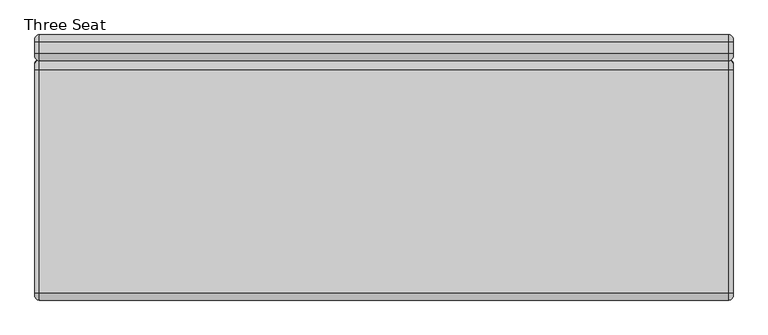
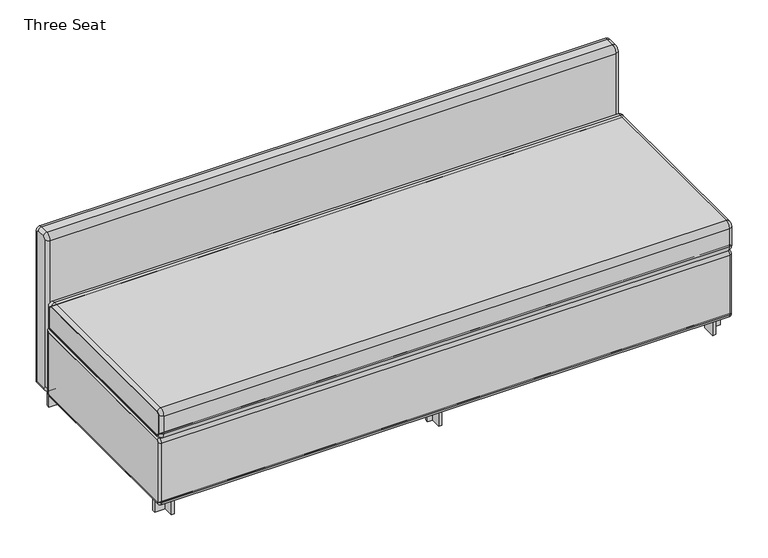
"""IFC4 building model written with IfcOpenShell, lengths in millimetres: furniture geometry, Steelcase Coalesse - Evaneau - Seating - Sofa : Three Seat."""

from ifc_helpers import new_model, si_unit, point, frame, frame_2d, origin, origin_with_axes, place, context, project, spatial, polyline, circle_curve, ellipse_curve, trimmed, segment, composite_curve, outline, extrude, source, transform, mapped, element, save
from ifc_brep_helpers import plane_surface, cylinder_surface, revolved_surface, advanced_brep


def three_seat_acbe4b72(model_context):
    return source(origin(), model_context, "Body", "SolidModel", [
        advanced_brep(
        [(392.722078, 1028.6276373, 663.0993943), (392.722078, 1007.0909384, 684.6360933), (405.422078, 1007.0909384, 671.9360933), (405.422078, 1015.9276373, 663.0993943), (-1720.557922, 1028.6276373, 663.0993943), (-1720.557922, 1007.0909384, 684.6360933), (-1733.257922, 1015.9276373, 663.0993943), (-1733.257922, 1007.0909384, 671.9360933), (405.422078, 1015.9276373, 73.3459621), (392.722078, 1028.6276373, 60.6459621), (-1720.557922, 1028.6276373, 60.6459621), (-1733.257922, 1015.9276373, 73.3459621), (405.422078, 971.5309093, 73.3459621), (392.722078, 971.5309093, 60.6459621), (-1720.557922, 971.5309093, 60.6459621), (-1733.257922, 971.5309093, 73.3459621), (405.422078, 962.6942103, 82.1826611), (392.722078, 949.9942103, 82.1826611), (-1720.557922, 949.9942103, 82.1826611), (-1733.257922, 962.6942103, 82.1826611), (405.422078, 962.6942103, 663.0993943), (392.722078, 949.9942103, 663.0993943), (-1720.557922, 949.9942103, 663.0993943), (-1733.257922, 962.6942103, 663.0993943), (405.422078, 971.5309093, 671.9360933), (392.722078, 971.5309093, 684.6360933), (-1720.557922, 971.5309093, 684.6360933), (-1733.257922, 971.5309093, 671.9360933)],
        [
            (0, 1, circle_curve(frame((392.722078, 1007.0909384, 663.0993943), z_axis=(1.0, 0.0, 0.0), x_axis=(0.0, 0.0, 1.0)), 21.536699)),
            (1, 2, circle_curve(frame((392.722078, 1007.0909384, 671.9360933), z_axis=(0.0, 1.0, 0.0), x_axis=(0.0, 0.0, -1.0)), 12.7)),
            (2, 3, circle_curve(frame((405.422078, 1007.0909384, 663.0993943), z_axis=(-1.0, 0.0, 0.0), x_axis=(0.0, 0.0, 1.0)), 8.836699)),
            (3, 0, circle_curve(frame((392.722078, 1015.9276373, 663.0993943), z_axis=(0.0, 0.0, 1.0), x_axis=(0.0, -1.0, 0.0)), 12.7)),
            (0, 4),
            (4, 5, circle_curve(frame((-1720.557922, 1007.0909384, 663.0993943), z_axis=(1.0, 0.0, 0.0), x_axis=(0.0, 0.0, 1.0)), 21.536699)),
            (5, 1),
            (4, 6, circle_curve(frame((-1720.557922, 1015.9276373, 663.0993943), z_axis=(0.0, 0.0, 1.0), x_axis=(0.0, -1.0, 0.0)), 12.7)),
            (6, 7, circle_curve(frame((-1733.257922, 1007.0909384, 663.0993943), z_axis=(1.0, 0.0, 0.0), x_axis=(0.0, 0.0, 1.0)), 8.836699)),
            (7, 5, circle_curve(frame((-1720.557922, 1007.0909384, 671.9360933), z_axis=(0.0, 1.0, 0.0), x_axis=(0.0, 0.0, -1.0)), 12.7)),
            (3, 8),
            (8, 9, ellipse_curve(frame((392.722078, 1015.9276373, 73.3459621), z_axis=(0.0, 0.7071067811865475, 0.7071067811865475), x_axis=(0.0, -0.7071067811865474, 0.7071067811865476)), 17.9605122, 12.7)),
            (9, 0),
            (9, 10),
            (10, 4),
            (10, 11, ellipse_curve(frame((-1720.557922, 1015.9276373, 73.3459621), z_axis=(0.0, 0.7071067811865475, 0.7071067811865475), x_axis=(0.0, -0.7071067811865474, 0.7071067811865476)), 17.9605122, 12.7)),
            (11, 6),
            (8, 12),
            (12, 13, circle_curve(frame((392.722078, 971.5309093, 73.3459621), z_axis=(0.0, 1.0, 0.0), x_axis=(0.0, 0.0, 1.0)), 12.7)),
            (13, 9),
            (13, 14),
            (14, 10),
            (14, 15, circle_curve(frame((-1720.557922, 971.5309093, 73.3459621), z_axis=(0.0, 1.0, 0.0), x_axis=(0.0, 0.0, 1.0)), 12.7)),
            (15, 11),
            (12, 16, circle_curve(frame((405.422078, 971.5309093, 82.1826611), z_axis=(-1.0, 0.0, 0.0), x_axis=(0.0, 0.0, -1.0)), 8.836699)),
            (16, 17, circle_curve(frame((392.722078, 962.6942103, 82.1826611), z_axis=(0.0, 0.0, -1.0), x_axis=(0.0, 1.0, 0.0)), 12.7)),
            (17, 13, circle_curve(frame((392.722078, 971.5309093, 82.1826611), z_axis=(1.0, 0.0, 0.0), x_axis=(0.0, 0.0, -1.0)), 21.536699)),
            (17, 18),
            (18, 14, circle_curve(frame((-1720.557922, 971.5309093, 82.1826611), z_axis=(1.0, 0.0, 0.0), x_axis=(0.0, 0.0, -1.0)), 21.536699)),
            (18, 19, circle_curve(frame((-1720.557922, 962.6942103, 82.1826611), z_axis=(0.0, 0.0, -1.0), x_axis=(0.0, 1.0, 0.0)), 12.7)),
            (19, 15, circle_curve(frame((-1733.257922, 971.5309093, 82.1826611), z_axis=(1.0, 0.0, 0.0), x_axis=(0.0, 0.0, -1.0)), 8.836699)),
            (16, 20),
            (20, 21, circle_curve(frame((392.722078, 962.6942103, 663.0993943), z_axis=(0.0, 0.0, -1.0), x_axis=(0.0, 1.0, 0.0)), 12.7)),
            (21, 17),
            (21, 22),
            (22, 18),
            (22, 23, circle_curve(frame((-1720.557922, 962.6942103, 663.0993943), z_axis=(0.0, 0.0, -1.0), x_axis=(0.0, 1.0, 0.0)), 12.7)),
            (23, 19),
            (20, 24, circle_curve(frame((405.422078, 971.5309093, 663.0993943), z_axis=(-1.0, 0.0, 0.0), x_axis=(0.0, -1.0, 0.0)), 8.836699)),
            (24, 25, circle_curve(frame((392.722078, 971.5309093, 671.9360933), z_axis=(0.0, -1.0, 0.0), x_axis=(0.0, 0.0, -1.0)), 12.7)),
            (25, 21, circle_curve(frame((392.722078, 971.5309093, 663.0993943), z_axis=(1.0, 0.0, 0.0), x_axis=(0.0, -1.0, 0.0)), 21.536699)),
            (25, 26),
            (26, 22, circle_curve(frame((-1720.557922, 971.5309093, 663.0993943), z_axis=(1.0, 0.0, 0.0), x_axis=(0.0, -1.0, 0.0)), 21.536699)),
            (26, 27, circle_curve(frame((-1720.557922, 971.5309093, 671.9360933), z_axis=(0.0, -1.0, 0.0), x_axis=(0.0, 0.0, -1.0)), 12.7)),
            (27, 23, circle_curve(frame((-1733.257922, 971.5309093, 663.0993943), z_axis=(1.0, 0.0, 0.0), x_axis=(0.0, -1.0, 0.0)), 8.836699)),
            (27, 7),
            (2, 24),
            (1, 25),
            (5, 26),
        ],
        [
            revolved_surface(trimmed(ellipse_curve(frame((392.722078, 1007.0909384, 671.9360933), z_axis=(0.0, -1.0, 0.0), x_axis=(0.0, 0.0, -1.0)), 12.7, 12.7), [point((405.422078, 1007.0909384, 671.9360933))], [point((392.722078, 1007.0909384, 684.6360933))], True, "CARTESIAN"), (-927.86904, 1007.0909384, 663.0993943), (-1.0, 0.0, 0.0)),
            cylinder_surface(frame((-927.86904, 1007.0909384, 663.0993943), z_axis=(-1.0, 0.0, 0.0), x_axis=(0.0, 0.0, 1.0)), 21.536699),
            revolved_surface(trimmed(ellipse_curve(frame((-1720.557922, 1007.0909384, 671.9360933), z_axis=(0.0, -1.0, 0.0), x_axis=(0.0, 0.0, -1.0)), 12.7, 12.7), [point((-1720.557922, 1007.0909384, 684.6360933))], [point((-1733.257922, 1007.0909384, 671.9360933))], True, "CARTESIAN"), (-927.86904, 1007.0909384, 663.0993943), (-1.0, 0.0, 0.0)),
            cylinder_surface(frame((392.722078, 1015.9276373, 663.0993943), z_axis=(0.0, 0.0, 1.0), x_axis=(0.0, -1.0, 0.0)), 12.7),
            plane_surface(frame((392.722078, 1028.6276373, 663.0993943), z_axis=(0.0, 1.0, 0.0), x_axis=(0.0, 0.0, -1.0))),
            cylinder_surface(frame((-1720.557922, 1015.9276373, 663.0993943), z_axis=(0.0, 0.0, 1.0), x_axis=(0.0, -1.0, 0.0)), 12.7),
            cylinder_surface(frame((392.722078, 1012.1709384, 73.3459621), z_axis=(0.0, 1.0, 0.0), x_axis=(0.0, 0.0, 1.0)), 12.7),
            plane_surface(frame((392.722078, 1028.6276373, 60.6459621), z_axis=(0.0, 0.0, -1.0), x_axis=(0.0, -1.0, 0.0))),
            cylinder_surface(frame((-1720.557922, 1012.1709384, 73.3459621), z_axis=(0.0, 1.0, 0.0), x_axis=(0.0, 0.0, 1.0)), 12.7),
            revolved_surface(trimmed(ellipse_curve(frame((392.722078, 971.5309093, 73.3459621), z_axis=(0.0, 1.0, 0.0), x_axis=(0.0, 0.0, 1.0)), 12.7, 12.7), [point((405.422078, 971.5309093, 73.3459621))], [point((392.722078, 971.5309093, 60.6459621))], True, "CARTESIAN"), (-927.86904, 971.5309093, 82.1826611), (-1.0, 0.0, 0.0)),
            cylinder_surface(frame((-927.86904, 971.5309093, 82.1826611), z_axis=(-1.0, 0.0, 0.0), x_axis=(0.0, 0.0, -1.0)), 21.536699),
            revolved_surface(trimmed(ellipse_curve(frame((-1720.557922, 971.5309093, 73.3459621), z_axis=(0.0, 1.0, 0.0), x_axis=(0.0, 0.0, 1.0)), 12.7, 12.7), [point((-1720.557922, 971.5309093, 60.6459621))], [point((-1733.257922, 971.5309093, 73.3459621))], True, "CARTESIAN"), (-927.86904, 971.5309093, 82.1826611), (-1.0, 0.0, 0.0)),
            cylinder_surface(frame((392.722078, 962.6942103, 82.1826611), z_axis=(0.0, 0.0, -1.0), x_axis=(0.0, 1.0, 0.0)), 12.7),
            plane_surface(frame((392.722078, 949.9942103, 82.1826611), z_axis=(0.0, -1.0, 0.0), x_axis=(0.0, 0.0, 1.0))),
            cylinder_surface(frame((-1720.557922, 962.6942103, 82.1826611), z_axis=(0.0, 0.0, -1.0), x_axis=(0.0, 1.0, 0.0)), 12.7),
            revolved_surface(trimmed(ellipse_curve(frame((392.722078, 962.6942103, 663.0993943), z_axis=(0.0, 0.0, -1.0), x_axis=(0.0, 1.0, 0.0)), 12.7, 12.7), [point((405.422078, 962.6942103, 663.0993943))], [point((392.722078, 949.9942103, 663.0993943))], True, "CARTESIAN"), (-927.86904, 971.5309093, 663.0993943), (-1.0, 0.0, 0.0)),
            cylinder_surface(frame((-927.86904, 971.5309093, 663.0993943), z_axis=(-1.0, 0.0, 0.0), x_axis=(0.0, -1.0, 0.0)), 21.536699),
            revolved_surface(trimmed(ellipse_curve(frame((-1720.557922, 962.6942103, 663.0993943), z_axis=(0.0, 0.0, -1.0), x_axis=(0.0, 1.0, 0.0)), 12.7, 12.7), [point((-1720.557922, 949.9942103, 663.0993943))], [point((-1733.257922, 962.6942103, 663.0993943))], True, "CARTESIAN"), (-927.86904, 971.5309093, 663.0993943), (-1.0, 0.0, 0.0)),
            plane_surface(frame((-1733.257922, 971.5309093, 671.9360933), z_axis=(-1.0, 0.0, 0.0), x_axis=(0.0, 1.0, 0.0))),
            plane_surface(frame((405.422078, 971.5309093, 668.1793943), z_axis=(1.0, 0.0, 0.0), x_axis=(0.0, 1.0, 0.0))),
            cylinder_surface(frame((392.722078, 971.5309093, 671.9360933), z_axis=(0.0, -1.0, 0.0), x_axis=(0.0, 0.0, -1.0)), 12.7),
            plane_surface(frame((392.722078, 971.5309093, 684.6360933), z_axis=(0.0, 0.0, 1.0), x_axis=(0.0, 1.0, 0.0))),
            cylinder_surface(frame((-1720.557922, 971.5309093, 671.9360933), z_axis=(0.0, -1.0, 0.0), x_axis=(0.0, 0.0, -1.0)), 12.7),
        ],
        [
            (0, [[1, 2, 3, 4]]),
            (1, [[-1, 5, 6, 7]]),
            (2, [[-6, 8, 9, 10]]),
            (3, [[-4, 11, 12, 13]]),
            (4, [[-5, -13, 14, 15]]),
            (5, [[-8, -15, 16, 17]]),
            (6, [[-12, 18, 19, 20]]),
            (7, [[-14, -20, 21, 22]]),
            (8, [[-16, -22, 23, 24]]),
            (9, [[-19, 25, 26, 27]]),
            (10, [[-21, -27, 28, 29]]),
            (11, [[-23, -29, 30, 31]]),
            (12, [[-26, 32, 33, 34]]),
            (13, [[-28, -34, 35, 36]]),
            (14, [[-30, -36, 37, 38]]),
            (15, [[-33, 39, 40, 41]]),
            (16, [[-35, -41, 42, 43]]),
            (17, [[-37, -43, 44, 45]]),
            (18, [[-9, -17, -24, -31, -38, -45, 46]]),
            (19, [[-3, 47, -39, -32, -25, -18, -11]]),
            (20, [[-2, 48, -40, -47]]),
            (21, [[-7, 49, -42, -48]]),
            (22, [[-10, -46, -44, -49]]),
        ],
    ),
        extrude(outline(polyline([(341.2367836, 960.681058), (341.2367836, 1012.1709384), (353.0383888, 1012.1709384), (353.0383888, 972.4828812), (392.377848, 972.4828812), (392.377848, 960.681058), (341.2367836, 960.681058)])), origin_with_axes(), (0.0, 0.0, 1.0), 56.333748),
        extrude(outline(polyline([(341.2367836, 288.1862243), (392.377848, 288.1862243), (392.377848, 276.3844011), (353.0383888, 276.3844011), (353.0383888, 236.6963439), (341.2367836, 236.6963439), (341.2367836, 288.1862243)])), origin_with_axes(), (0.0, 0.0, 1.0), 56.333748),
        extrude(outline(polyline([(-648.4730833, 288.361073), (-648.4730833, 276.5592497), (-669.9855299, 276.5592497), (-669.9855299, 236.8711926), (-681.7871351, 236.8711926), (-681.7871351, 276.5592497), (-700.8888762, 276.5592497), (-700.8888762, 288.361073), (-648.4730833, 288.361073)])), origin_with_axes(), (0.0, 0.0, 1.0), 56.333748),
        extrude(outline(polyline([(-648.4730833, 959.9993115), (-700.8888762, 959.9993115), (-700.8888762, 971.8011347), (-681.7871351, 971.8011347), (-681.7871351, 1011.4891918), (-669.9855299, 1011.4891918), (-669.9855299, 971.8011347), (-648.4730833, 971.8011347), (-648.4730833, 959.9993115)])), origin_with_axes(), (0.0, 0.0, 1.0), 56.333748),
        extrude(outline(polyline([(-1669.0726275, 960.681058), (-1720.213692, 960.681058), (-1720.213692, 972.4828812), (-1680.8742328, 972.4828812), (-1680.8742328, 1012.1709384), (-1669.0726275, 1012.1709384), (-1669.0726275, 960.681058)])), origin_with_axes(), (0.0, 0.0, 1.0), 56.333748),
        extrude(outline(polyline([(-1669.0726275, 288.1862243), (-1669.0726275, 236.6963439), (-1680.8742328, 236.6963439), (-1680.8742328, 276.3844011), (-1720.213692, 276.3844011), (-1720.213692, 288.1862243), (-1669.0726275, 288.1862243)])), origin_with_axes(), (0.0, 0.0, 1.0), 56.333748),
        advanced_brep(
        [(397.802078, 221.439472, 71.8912426), (397.802078, 235.3471838, 57.9835308), (405.422078, 235.3471838, 65.6035308), (405.422078, 229.059472, 71.8912426), (-1725.6056675, 221.439472, 71.8912426), (-1725.6056675, 235.3471838, 57.9835308), (-1733.257922, 229.0917265, 71.8912426), (-1733.257922, 235.3471838, 65.6357853), (405.422078, 230.2671838, 71.8912426), (405.422078, 235.3471838, 66.8112426), (-1733.257922, 235.3471838, 66.8112426), (-1733.257922, 230.2671838, 71.8912426), (405.422078, 229.059472, 306.7299722), (397.802078, 221.439472, 306.7299722), (-1725.6056675, 221.439472, 306.7299722), (-1733.257922, 229.0917265, 306.7299722), (-1733.257922, 230.2671838, 306.7299722), (405.422078, 230.2671838, 306.7299722), (397.802078, 235.3471838, 320.637684), (405.422078, 235.3471838, 313.017684), (-1725.6056675, 235.3471838, 320.637684), (-1733.257922, 235.3471838, 312.9854295), (405.422078, 235.3471838, 311.8099722), (-1733.257922, 235.3471838, 311.8099722), (405.422078, 942.4384655, 313.017684), (405.422078, 936.1507537, 65.6035308), (405.422078, 942.4384655, 71.8912426), (405.422078, 941.2307537, 311.8099722), (405.422078, 941.2307537, 71.8912426), (405.422078, 936.1507537, 66.8112426), (397.802078, 950.0584655, 320.637684), (-1725.6056675, 950.0584655, 320.637684), (-1733.257922, 942.406211, 312.9854295), (-1733.257922, 942.406211, 71.8912426), (-1733.257922, 936.1507537, 65.6357853), (-1733.257922, 941.2307537, 311.8099722), (-1733.257922, 936.1507537, 66.8112426), (-1733.257922, 941.2307537, 71.8912426), (397.802078, 950.0584655, 71.8912426), (-1725.6056675, 950.0584655, 71.8912426), (397.802078, 936.1507537, 57.9835308), (-1725.6056675, 936.1507537, 57.9835308)],
        [
            (0, 1, circle_curve(frame((397.802078, 235.3471838, 71.8912426), z_axis=(1.0, 0.0, 0.0), x_axis=(0.0, 0.0, -1.0)), 13.9077117)),
            (1, 2, circle_curve(frame((397.802078, 235.3471838, 65.6035308), z_axis=(0.0, -1.0, 0.0), x_axis=(0.0, 0.0, 1.0)), 7.62)),
            (2, 3, circle_curve(frame((405.422078, 235.3471838, 71.8912426), z_axis=(-1.0, 0.0, 0.0), x_axis=(0.0, 0.0, -1.0)), 6.2877117)),
            (3, 0, circle_curve(frame((397.802078, 229.059472, 71.8912426), z_axis=(0.0, 0.0, -1.0), x_axis=(0.0, 1.0, 0.0)), 7.62)),
            (4, 5, circle_curve(frame((-1725.6056675, 235.3471838, 71.8912426), z_axis=(1.0, 0.0, 0.0), x_axis=(0.0, 0.0, -1.0)), 13.9077117)),
            (5, 1),
            (0, 4),
            (6, 7, circle_curve(frame((-1733.257922, 235.3471838, 71.8912426), z_axis=(1.0, 0.0, 0.0), x_axis=(0.0, 0.0, -1.0)), 6.2554573)),
            (7, 5, circle_curve(frame((-1725.6056675, 235.3471838, 65.6357853), z_axis=(0.0, -1.0, 0.0), x_axis=(0.0, 0.0, 1.0)), 7.6522545)),
            (4, 6, circle_curve(frame((-1725.6056675, 229.0917265, 71.8912426), z_axis=(0.0, 0.0, -1.0), x_axis=(0.0, 1.0, 0.0)), 7.6522545)),
            (8, 9, circle_curve(frame((405.422078, 235.3471838, 71.8912426), z_axis=(1.0, 0.0, 0.0), x_axis=(0.0, 0.0, -1.0)), 5.08)),
            (9, 10),
            (10, 11, circle_curve(frame((-1733.257922, 235.3471838, 71.8912426), z_axis=(-1.0, 0.0, 0.0), x_axis=(0.0, 0.0, -1.0)), 5.08)),
            (11, 8),
            (3, 12),
            (12, 13, circle_curve(frame((397.802078, 229.059472, 306.7299722), z_axis=(0.0, 0.0, -1.0), x_axis=(0.0, 1.0, 0.0)), 7.62)),
            (13, 0),
            (13, 14),
            (14, 4),
            (14, 15, circle_curve(frame((-1725.6056675, 229.0917265, 306.7299722), z_axis=(0.0, 0.0, -1.0), x_axis=(0.0, 1.0, 0.0)), 7.6522545)),
            (15, 6),
            (11, 16),
            (16, 17),
            (17, 8),
            (18, 13, circle_curve(frame((397.802078, 235.3471838, 306.7299722), z_axis=(1.0, 0.0, 0.0), x_axis=(0.0, -1.0, 0.0)), 13.9077117)),
            (12, 19, circle_curve(frame((405.422078, 235.3471838, 306.7299722), z_axis=(-1.0, 0.0, 0.0), x_axis=(0.0, -1.0, 0.0)), 6.2877117)),
            (19, 18, circle_curve(frame((397.802078, 235.3471838, 313.017684), z_axis=(0.0, -1.0, 0.0), x_axis=(0.0, 0.0, -1.0)), 7.62)),
            (20, 14, circle_curve(frame((-1725.6056675, 235.3471838, 306.7299722), z_axis=(1.0, 0.0, 0.0), x_axis=(0.0, -1.0, 0.0)), 13.9077117)),
            (18, 20),
            (21, 15, circle_curve(frame((-1733.257922, 235.3471838, 306.7299722), z_axis=(1.0, 0.0, 0.0), x_axis=(0.0, -1.0, 0.0)), 6.2554573)),
            (20, 21, circle_curve(frame((-1725.6056675, 235.3471838, 312.9854295), z_axis=(0.0, -1.0, 0.0), x_axis=(0.0, 0.0, -1.0)), 7.6522545)),
            (22, 17, circle_curve(frame((405.422078, 235.3471838, 306.7299722), z_axis=(1.0, 0.0, 0.0), x_axis=(0.0, -1.0, 0.0)), 5.08)),
            (16, 23, circle_curve(frame((-1733.257922, 235.3471838, 306.7299722), z_axis=(-1.0, 0.0, 0.0), x_axis=(0.0, -1.0, 0.0)), 5.08)),
            (23, 22),
            (24, 19),
            (2, 25),
            (25, 26, circle_curve(frame((405.422078, 936.1507537, 71.8912426), z_axis=(1.0, 0.0, 0.0), x_axis=(0.0, 1.0, 0.0)), 6.2877117)),
            (26, 24),
            (22, 27),
            (27, 28),
            (28, 29, circle_curve(frame((405.422078, 936.1507537, 71.8912426), z_axis=(-1.0, 0.0, 0.0), x_axis=(0.0, 1.0, 0.0)), 5.08)),
            (29, 9),
            (24, 30, ellipse_curve(frame((397.802078, 942.4384655, 313.017684), z_axis=(0.0, -0.7071067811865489, 0.707106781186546), x_axis=(0.0, -0.7071067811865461, -0.7071067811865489)), 10.7763073, 7.62)),
            (30, 18),
            (30, 31),
            (31, 20),
            (31, 32, ellipse_curve(frame((-1725.6056675, 942.406211, 312.9854295), z_axis=(0.0, -0.7071067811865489, 0.707106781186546), x_axis=(0.0, -0.7071067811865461, -0.7071067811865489)), 10.8219221, 7.6522545)),
            (32, 21),
            (32, 33),
            (33, 34, circle_curve(frame((-1733.257922, 936.1507537, 71.8912426), z_axis=(-1.0, 0.0, 0.0), x_axis=(0.0, 1.0, 0.0)), 6.2554573)),
            (34, 7),
            (35, 23),
            (10, 36),
            (36, 37, circle_curve(frame((-1733.257922, 936.1507537, 71.8912426), z_axis=(1.0, 0.0, 0.0), x_axis=(0.0, 1.0, 0.0)), 5.08)),
            (37, 35),
            (35, 27),
            (26, 38, circle_curve(frame((397.802078, 942.4384655, 71.8912426), z_axis=(0.0, 0.0, 1.0), x_axis=(0.0, -1.0, 0.0)), 7.62)),
            (38, 30),
            (38, 39),
            (39, 31),
            (39, 33, circle_curve(frame((-1725.6056675, 942.406211, 71.8912426), z_axis=(0.0, 0.0, 1.0), x_axis=(0.0, -1.0, 0.0)), 7.6522545)),
            (37, 28),
            (40, 38, circle_curve(frame((397.802078, 936.1507537, 71.8912426), z_axis=(1.0, 0.0, 0.0), x_axis=(0.0, 1.0, 0.0)), 13.9077117)),
            (25, 40, circle_curve(frame((397.802078, 936.1507537, 65.6035308), z_axis=(0.0, 1.0, 0.0), x_axis=(0.0, 0.0, 1.0)), 7.62)),
            (41, 39, circle_curve(frame((-1725.6056675, 936.1507537, 71.8912426), z_axis=(1.0, 0.0, 0.0), x_axis=(0.0, 1.0, 0.0)), 13.9077117)),
            (40, 41),
            (41, 34, circle_curve(frame((-1725.6056675, 936.1507537, 65.6357853), z_axis=(0.0, 1.0, 0.0), x_axis=(0.0, 0.0, 1.0)), 7.6522545)),
            (36, 29),
            (1, 40),
            (5, 41),
        ],
        [
            revolved_surface(trimmed(ellipse_curve(frame((397.802078, 235.3471838, 65.6035308), z_axis=(0.0, 1.0, 0.0), x_axis=(0.0, 0.0, 1.0)), 7.62, 7.62), [point((405.422078, 235.3471838, 65.6035308))], [point((397.802078, 235.3471838, 57.9835308))], True, "CARTESIAN"), (-663.917922, 235.3471838, 71.8912426), (-1.0, 0.0, 0.0)),
            cylinder_surface(frame((-663.917922, 235.3471838, 71.8912426), z_axis=(-1.0, 0.0, 0.0), x_axis=(0.0, 0.0, -1.0)), 13.9077117),
            revolved_surface(trimmed(ellipse_curve(frame((-1725.6056675, 235.3471838, 65.6357853), z_axis=(0.0, 1.0, 0.0), x_axis=(0.0, 0.0, 1.0)), 7.6522545, 7.6522545), [point((-1725.6056675, 235.3471838, 57.9835308))], [point((-1733.257922, 235.3471838, 65.6357853))], True, "CARTESIAN"), (-663.917922, 235.3471838, 71.8912426), (-1.0, 0.0, 0.0)),
            revolved_surface(polyline([(-1733.2579220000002, 235.3471838, 66.8112426), (405.42207799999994, 235.3471838, 66.8112426)]), (-663.917922, 235.3471838, 71.8912426), (-1.0, 0.0, 0.0)),
            cylinder_surface(frame((397.802078, 229.059472, 71.8912426), z_axis=(0.0, 0.0, -1.0), x_axis=(0.0, 1.0, 0.0)), 7.62),
            plane_surface(frame((397.802078, 221.439472, 71.8912426), z_axis=(0.0, -1.0, 0.0), x_axis=(0.0, 0.0, 1.0))),
            cylinder_surface(frame((-1725.6056675, 229.0917265, 71.8912426), z_axis=(0.0, 0.0, -1.0), x_axis=(0.0, 1.0, 0.0)), 7.6522545),
            plane_surface(frame((-1733.257922, 230.2671838, 71.8912426), z_axis=(0.0, 1.0, 0.0), x_axis=(0.0, 0.0, 1.0))),
            revolved_surface(trimmed(ellipse_curve(frame((397.802078, 229.059472, 306.7299722), z_axis=(0.0, 0.0, -1.0), x_axis=(0.0, 1.0, 0.0)), 7.62, 7.62), [point((405.422078, 229.059472, 306.7299722))], [point((397.802078, 221.439472, 306.7299722))], True, "CARTESIAN"), (-663.917922, 235.3471838, 306.7299722), (-1.0, 0.0, 0.0)),
            cylinder_surface(frame((-663.917922, 235.3471838, 306.7299722), z_axis=(-1.0, 0.0, 0.0), x_axis=(0.0, -1.0, 0.0)), 13.9077117),
            revolved_surface(trimmed(ellipse_curve(frame((-1725.6056675, 229.0917265, 306.7299722), z_axis=(0.0, 0.0, -1.0), x_axis=(0.0, 1.0, 0.0)), 7.6522545, 7.6522545), [point((-1725.6056675, 221.439472, 306.7299722))], [point((-1733.257922, 229.0917265, 306.7299722))], True, "CARTESIAN"), (-663.917922, 235.3471838, 306.7299722), (-1.0, 0.0, 0.0)),
            revolved_surface(polyline([(-1733.2579220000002, 230.2671838, 306.7299722), (405.42207799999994, 230.2671838, 306.7299722)]), (-663.917922, 235.3471838, 306.7299722), (-1.0, 0.0, 0.0)),
            plane_surface(frame((405.422078, 235.3471838, 311.8099722), z_axis=(1.0, 0.0, 0.0), x_axis=(0.0, 1.0, 0.0))),
            cylinder_surface(frame((397.802078, 235.3471838, 313.017684), z_axis=(0.0, -1.0, 0.0), x_axis=(0.0, 0.0, -1.0)), 7.62),
            plane_surface(frame((397.802078, 235.3471838, 320.637684), z_axis=(0.0, 0.0, 1.0), x_axis=(0.0, 1.0, 0.0))),
            cylinder_surface(frame((-1725.6056675, 235.3471838, 312.9854295), z_axis=(0.0, -1.0, 0.0), x_axis=(0.0, 0.0, -1.0)), 7.6522545),
            plane_surface(frame((-1733.257922, 235.3471838, 312.9854295), z_axis=(-1.0, 0.0, 0.0), x_axis=(0.0, 1.0, 0.0))),
            plane_surface(frame((-1733.257922, 235.3471838, 311.8099722), z_axis=(0.0, 0.0, -1.0), x_axis=(0.0, 1.0, 0.0))),
            cylinder_surface(frame((397.802078, 942.4384655, 311.8099722), z_axis=(0.0, 0.0, 1.0), x_axis=(0.0, -1.0, 0.0)), 7.62),
            plane_surface(frame((397.802078, 950.0584655, 320.637684), z_axis=(0.0, 1.0, 0.0), x_axis=(0.0, 0.0, -1.0))),
            cylinder_surface(frame((-1725.6056675, 942.406211, 311.8099722), z_axis=(0.0, 0.0, 1.0), x_axis=(0.0, -1.0, 0.0)), 7.6522545),
            plane_surface(frame((-1733.257922, 941.2307537, 311.8099722), z_axis=(0.0, -1.0, 0.0), x_axis=(0.0, 0.0, -1.0))),
            revolved_surface(trimmed(ellipse_curve(frame((397.802078, 942.4384655, 71.8912426), z_axis=(0.0, 0.0, 1.0), x_axis=(0.0, -1.0, 0.0)), 7.62, 7.62), [point((405.422078, 942.4384655, 71.8912426))], [point((397.802078, 950.0584655, 71.8912426))], True, "CARTESIAN"), (-663.917922, 936.1507537, 71.8912426), (-1.0, 0.0, 0.0)),
            cylinder_surface(frame((-663.917922, 936.1507537, 71.8912426), z_axis=(-1.0, 0.0, 0.0), x_axis=(0.0, 1.0, 0.0)), 13.9077117),
            revolved_surface(trimmed(ellipse_curve(frame((-1725.6056675, 942.406211, 71.8912426), z_axis=(0.0, 0.0, 1.0), x_axis=(0.0, -1.0, 0.0)), 7.6522545, 7.6522545), [point((-1725.6056675, 950.0584655, 71.8912426))], [point((-1733.257922, 942.406211, 71.8912426))], True, "CARTESIAN"), (-663.917922, 936.1507537, 71.8912426), (-1.0, 0.0, 0.0)),
            revolved_surface(polyline([(-1733.2579220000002, 941.2307537, 71.8912426), (405.42207799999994, 941.2307537, 71.8912426)]), (-663.917922, 936.1507537, 71.8912426), (-1.0, 0.0, 0.0)),
            cylinder_surface(frame((397.802078, 936.1507537, 65.6035308), z_axis=(0.0, 1.0, 0.0), x_axis=(0.0, 0.0, 1.0)), 7.62),
            plane_surface(frame((397.802078, 936.1507537, 57.9835308), z_axis=(0.0, 0.0, -1.0), x_axis=(0.0, -1.0, 0.0))),
            cylinder_surface(frame((-1725.6056675, 936.1507537, 65.6357853), z_axis=(0.0, 1.0, 0.0), x_axis=(0.0, 0.0, 1.0)), 7.6522545),
            plane_surface(frame((-1733.257922, 936.1507537, 66.8112426), z_axis=(0.0, 0.0, 1.0), x_axis=(0.0, -1.0, 0.0))),
        ],
        [
            (0, [[1, 2, 3, 4]]),
            (1, [[5, 6, -1, 7]]),
            (2, [[8, 9, -5, 10]]),
            (3, [[11, 12, 13, 14]]),
            (4, [[-4, 15, 16, 17]]),
            (5, [[-7, -17, 18, 19]]),
            (6, [[-10, -19, 20, 21]]),
            (7, [[-14, 22, 23, 24]]),
            (8, [[25, -16, 26, 27]]),
            (9, [[28, -18, -25, 29]]),
            (10, [[30, -20, -28, 31]]),
            (11, [[32, -23, 33, 34]]),
            (12, [[35, -26, -15, -3, 36, 37, 38], [-24, -32, 39, 40, 41, 42, -11]]),
            (13, [[-27, -35, 43, 44]]),
            (14, [[-29, -44, 45, 46]]),
            (15, [[-31, -46, 47, 48]]),
            (16, [[-21, -30, -48, 49, 50, 51, -8], [52, -33, -22, -13, 53, 54, 55]]),
            (17, [[-34, -52, 56, -39]]),
            (18, [[-43, -38, 57, 58]]),
            (19, [[-45, -58, 59, 60]]),
            (20, [[-47, -60, 61, -49]]),
            (21, [[-56, -55, 62, -40]]),
            (22, [[63, -57, -37, 64]]),
            (23, [[65, -59, -63, 66]]),
            (24, [[-50, -61, -65, 67]]),
            (25, [[-41, -62, -54, 68]]),
            (26, [[-64, -36, -2, 69]]),
            (27, [[-66, -69, -6, 70]]),
            (28, [[-67, -70, -9, -51]]),
            (29, [[-68, -53, -12, -42]]),
        ],
    ),
        advanced_brep(
        [(405.422078, 934.8184437, 409.1587342), (405.422078, 922.1184437, 421.8587342), (-1733.257922, 922.1184437, 421.8587342), (-1733.257922, 934.8184437, 409.1587342), (392.722078, 950.0584655, 409.1587342), (392.722078, 922.1184437, 437.098756), (405.422078, 922.1184437, 424.398756), (405.422078, 937.3584655, 409.1587342), (-1720.557922, 950.0584655, 409.1587342), (-1720.557922, 922.1184437, 437.098756), (-1733.257922, 937.3584655, 409.1587342), (-1733.257922, 922.1184437, 424.398756), (-1733.257922, 934.8184437, 333.337684), (405.422078, 934.8184437, 333.337684), (405.422078, 937.3584655, 330.7976622), (392.722078, 950.0584655, 318.0976622), (-1720.557922, 950.0584655, 318.0976622), (-1733.257922, 937.3584655, 330.7976622), (-1733.257922, 242.9671838, 330.7976622), (-1733.257922, 232.8871832, 334.6073799), (-1733.257922, 227.727162, 346.037684), (-1733.257922, 227.727162, 416.7787342), (-1733.257922, 235.3471838, 424.398756), (-1733.257922, 242.9671838, 333.337684), (-1733.257922, 235.3471838, 421.8587342), (-1733.257922, 230.2671838, 416.7787342), (-1733.257922, 230.2671838, 346.037684), (-1733.257922, 234.5671953, 336.5124442), (405.422078, 242.9671838, 333.337684), (405.422078, 242.9671838, 330.7976622), (405.422078, 235.3471838, 424.398756), (405.422078, 227.727162, 416.7787342), (405.422078, 227.727162, 346.037684), (405.422078, 232.8871832, 334.6073799), (405.422078, 234.5671953, 336.5124442), (405.422078, 230.2671838, 346.037684), (405.422078, 230.2671838, 416.7787342), (405.422078, 235.3471838, 421.8587342), (392.722078, 242.9671838, 318.0976622), (-1720.557922, 242.9671838, 318.0976622), (392.722078, 224.4871947, 325.0821401), (-1720.557922, 224.4871947, 325.0821401), (392.722078, 215.027162, 346.037684), (-1720.557922, 215.027162, 346.037684), (392.722078, 215.027162, 416.7787342), (-1720.557922, 215.027162, 416.7787342), (392.722078, 235.3471838, 437.098756), (-1720.557922, 235.3471838, 437.098756)],
        [
            (0, 1, circle_curve(frame((405.422078, 922.1184437, 409.1587342), z_axis=(1.0, 0.0, 0.0), x_axis=(0.0, 0.0, 1.0)), 12.7)),
            (1, 2),
            (2, 3, circle_curve(frame((-1733.257922, 922.1184437, 409.1587342), z_axis=(-1.0, 0.0, 0.0), x_axis=(0.0, 0.0, 1.0)), 12.7)),
            (3, 0),
            (4, 5, circle_curve(frame((392.722078, 922.1184437, 409.1587342), z_axis=(1.0, 0.0, 0.0), x_axis=(0.0, 0.0, 1.0)), 27.9400218)),
            (5, 6, circle_curve(frame((392.722078, 922.1184437, 424.398756), z_axis=(0.0, 1.0, 0.0), x_axis=(0.0, 0.0, -1.0)), 12.7)),
            (6, 7, circle_curve(frame((405.422078, 922.1184437, 409.1587342), z_axis=(-1.0, 0.0, 0.0), x_axis=(0.0, 0.0, 1.0)), 15.2400218)),
            (7, 4, circle_curve(frame((392.722078, 937.3584655, 409.1587342), z_axis=(0.0, 0.0, 1.0), x_axis=(0.0, -1.0, 0.0)), 12.7)),
            (8, 9, circle_curve(frame((-1720.557922, 922.1184437, 409.1587342), z_axis=(1.0, 0.0, 0.0), x_axis=(0.0, 0.0, 1.0)), 27.9400218)),
            (9, 5),
            (4, 8),
            (10, 11, circle_curve(frame((-1733.257922, 922.1184437, 409.1587342), z_axis=(1.0, 0.0, 0.0), x_axis=(0.0, 0.0, 1.0)), 15.2400218)),
            (11, 9, circle_curve(frame((-1720.557922, 922.1184437, 424.398756), z_axis=(0.0, 1.0, 0.0), x_axis=(0.0, 0.0, -1.0)), 12.7)),
            (8, 10, circle_curve(frame((-1720.557922, 937.3584655, 409.1587342), z_axis=(0.0, 0.0, 1.0), x_axis=(0.0, -1.0, 0.0)), 12.7)),
            (3, 12),
            (12, 13),
            (13, 0),
            (7, 14),
            (14, 15, ellipse_curve(frame((392.722078, 937.3584655, 330.7976622), z_axis=(0.0, 0.7071067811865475, 0.7071067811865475), x_axis=(0.0, -0.7071067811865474, 0.7071067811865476)), 17.9605122, 12.7)),
            (15, 4),
            (15, 16),
            (16, 8),
            (16, 17, ellipse_curve(frame((-1720.557922, 937.3584655, 330.7976622), z_axis=(0.0, 0.7071067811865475, 0.7071067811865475), x_axis=(0.0, -0.7071067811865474, 0.7071067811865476)), 17.9605122, 12.7)),
            (17, 10),
            (17, 18),
            (18, 19, circle_curve(frame((-1733.257922, 242.9671838, 346.037684), z_axis=(-1.0, 0.0, 0.0), x_axis=(0.0, 0.0, -1.0)), 15.2400218)),
            (19, 20, circle_curve(frame((-1733.257922, 242.9671838, 346.037684), z_axis=(-1.0, 0.0, 0.0), x_axis=(0.0, -0.6614164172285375, -0.7500188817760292)), 15.2400218)),
            (20, 21),
            (21, 22, circle_curve(frame((-1733.257922, 235.3471838, 416.7787342), z_axis=(-1.0, 0.0, 0.0), x_axis=(0.0, -1.0, 0.0)), 7.6200218)),
            (22, 11),
            (23, 12),
            (2, 24),
            (24, 25, circle_curve(frame((-1733.257922, 235.3471838, 416.7787342), z_axis=(1.0, 0.0, 0.0), x_axis=(0.0, -1.0, 0.0)), 5.08)),
            (25, 26),
            (26, 27, circle_curve(frame((-1733.257922, 242.9671838, 346.037684), z_axis=(1.0, 0.0, 0.0), x_axis=(0.0, -0.6614164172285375, -0.7500188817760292)), 12.7)),
            (27, 23, circle_curve(frame((-1733.257922, 242.9671838, 346.037684), z_axis=(1.0, 0.0, 0.0), x_axis=(0.0, 0.0, -1.0)), 12.7)),
            (23, 28),
            (28, 13),
            (29, 14),
            (6, 30),
            (30, 31, circle_curve(frame((405.422078, 235.3471838, 416.7787342), z_axis=(1.0, 0.0, 0.0), x_axis=(0.0, -1.0, 0.0)), 7.6200218)),
            (31, 32),
            (32, 33, circle_curve(frame((405.422078, 242.9671838, 346.037684), z_axis=(1.0, 0.0, 0.0), x_axis=(0.0, -0.6614164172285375, -0.7500188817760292)), 15.2400218)),
            (33, 29, circle_curve(frame((405.422078, 242.9671838, 346.037684), z_axis=(1.0, 0.0, 0.0), x_axis=(0.0, 0.0, -1.0)), 15.2400218)),
            (28, 34, circle_curve(frame((405.422078, 242.9671838, 346.037684), z_axis=(-1.0, 0.0, 0.0), x_axis=(0.0, 0.0, -1.0)), 12.7)),
            (34, 35, circle_curve(frame((405.422078, 242.9671838, 346.037684), z_axis=(-1.0, 0.0, 0.0), x_axis=(0.0, -0.6614164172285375, -0.7500188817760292)), 12.7)),
            (35, 36),
            (36, 37, circle_curve(frame((405.422078, 235.3471838, 416.7787342), z_axis=(-1.0, 0.0, 0.0), x_axis=(0.0, -1.0, 0.0)), 5.08)),
            (37, 1),
            (29, 38, circle_curve(frame((392.722078, 242.9671838, 330.7976622), z_axis=(0.0, 1.0, 0.0), x_axis=(0.0, 0.0, 1.0)), 12.7)),
            (38, 15),
            (38, 39),
            (39, 16),
            (39, 18, circle_curve(frame((-1720.557922, 242.9671838, 330.7976622), z_axis=(0.0, 1.0, 0.0), x_axis=(0.0, 0.0, 1.0)), 12.7)),
            (27, 34),
            (40, 38, circle_curve(frame((392.722078, 242.9671838, 346.037684), z_axis=(1.0, 0.0, 0.0), x_axis=(0.0, 0.0, -1.0)), 27.9400218)),
            (33, 40, circle_curve(frame((392.722078, 232.8871832, 334.6073799), z_axis=(0.0, 0.7500188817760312, -0.6614164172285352), x_axis=(0.0, 0.6614164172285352, 0.7500188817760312)), 12.7)),
            (41, 39, circle_curve(frame((-1720.557922, 242.9671838, 346.037684), z_axis=(1.0, 0.0, 0.0), x_axis=(0.0, 0.0, -1.0)), 27.9400218)),
            (40, 41),
            (41, 19, circle_curve(frame((-1720.557922, 232.8871832, 334.6073799), z_axis=(0.0, 0.7500188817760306, -0.6614164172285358), x_axis=(0.0, 0.6614164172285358, 0.7500188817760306)), 12.7)),
            (26, 35),
            (42, 40, circle_curve(frame((392.722078, 242.9671838, 346.037684), z_axis=(1.0, 0.0, 0.0), x_axis=(0.0, -0.6614164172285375, -0.7500188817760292)), 27.9400218)),
            (32, 42, circle_curve(frame((392.722078, 227.727162, 346.037684), z_axis=(0.0, 0.0, -1.0), x_axis=(0.0, 1.0, 0.0)), 12.7)),
            (43, 41, circle_curve(frame((-1720.557922, 242.9671838, 346.037684), z_axis=(1.0, 0.0, 0.0), x_axis=(0.0, -0.6614164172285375, -0.7500188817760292)), 27.9400218)),
            (42, 43),
            (43, 20, circle_curve(frame((-1720.557922, 227.727162, 346.037684), z_axis=(0.0, 0.0, -1.0), x_axis=(0.0, 1.0, 0.0)), 12.7)),
            (25, 36),
            (31, 44, circle_curve(frame((392.722078, 227.727162, 416.7787342), z_axis=(0.0, 0.0, -1.0), x_axis=(0.0, 1.0, 0.0)), 12.7)),
            (44, 42),
            (44, 45),
            (45, 43),
            (45, 21, circle_curve(frame((-1720.557922, 227.727162, 416.7787342), z_axis=(0.0, 0.0, -1.0), x_axis=(0.0, 1.0, 0.0)), 12.7)),
            (24, 37),
            (46, 44, circle_curve(frame((392.722078, 235.3471838, 416.7787342), z_axis=(1.0, 0.0, 0.0), x_axis=(0.0, -1.0, 0.0)), 20.3200218)),
            (30, 46, circle_curve(frame((392.722078, 235.3471838, 424.398756), z_axis=(0.0, -1.0, 0.0), x_axis=(0.0, 0.0, -1.0)), 12.7)),
            (47, 45, circle_curve(frame((-1720.557922, 235.3471838, 416.7787342), z_axis=(1.0, 0.0, 0.0), x_axis=(0.0, -1.0, 0.0)), 20.3200218)),
            (46, 47),
            (47, 22, circle_curve(frame((-1720.557922, 235.3471838, 424.398756), z_axis=(0.0, -1.0, 0.0), x_axis=(0.0, 0.0, -1.0)), 12.7)),
            (5, 46),
            (9, 47),
        ],
        [
            revolved_surface(polyline([(-1733.2579220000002, 922.1184437, 421.8587342), (405.42207799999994, 922.1184437, 421.8587342)]), (-663.917922, 922.1184437, 409.1587342), (-1.0, 0.0, 0.0)),
            revolved_surface(trimmed(ellipse_curve(frame((392.722078, 922.1184437, 424.398756), z_axis=(0.0, -1.0, 0.0), x_axis=(0.0, 0.0, -1.0)), 12.7, 12.7), [point((405.422078, 922.1184437, 424.398756))], [point((392.722078, 922.1184437, 437.098756))], True, "CARTESIAN"), (-663.917922, 922.1184437, 409.1587342), (-1.0, 0.0, 0.0)),
            cylinder_surface(frame((-663.917922, 922.1184437, 409.1587342), z_axis=(-1.0, 0.0, 0.0), x_axis=(0.0, 0.0, 1.0)), 27.9400218),
            revolved_surface(trimmed(ellipse_curve(frame((-1720.557922, 922.1184437, 424.398756), z_axis=(0.0, -1.0, 0.0), x_axis=(0.0, 0.0, -1.0)), 12.7, 12.7), [point((-1720.557922, 922.1184437, 437.098756))], [point((-1733.257922, 922.1184437, 424.398756))], True, "CARTESIAN"), (-663.917922, 922.1184437, 409.1587342), (-1.0, 0.0, 0.0)),
            plane_surface(frame((-1733.257922, 934.8184437, 409.1587342), z_axis=(0.0, -1.0, 0.0), x_axis=(0.0, 0.0, -1.0))),
            cylinder_surface(frame((392.722078, 937.3584655, 409.1587342), z_axis=(0.0, 0.0, 1.0), x_axis=(0.0, -1.0, 0.0)), 12.7),
            plane_surface(frame((392.722078, 950.0584655, 409.1587342), z_axis=(0.0, 1.0, 0.0), x_axis=(0.0, 0.0, -1.0))),
            cylinder_surface(frame((-1720.557922, 937.3584655, 409.1587342), z_axis=(0.0, 0.0, 1.0), x_axis=(0.0, -1.0, 0.0)), 12.7),
            plane_surface(frame((-1733.257922, 937.3584655, 330.7976622), z_axis=(-1.0, 0.0, 0.0), x_axis=(0.0, -1.0, 0.0))),
            plane_surface(frame((-1733.257922, 934.8184437, 333.337684), z_axis=(0.0, 0.0, 1.0), x_axis=(0.0, -1.0, 0.0))),
            plane_surface(frame((405.422078, 934.8184437, 333.337684), z_axis=(1.0, 0.0, 0.0), x_axis=(0.0, -1.0, 0.0))),
            cylinder_surface(frame((392.722078, 934.8184437, 330.7976622), z_axis=(0.0, 1.0, 0.0), x_axis=(0.0, 0.0, 1.0)), 12.7),
            plane_surface(frame((392.722078, 950.0584655, 318.0976622), z_axis=(0.0, 0.0, -1.0), x_axis=(0.0, -1.0, 0.0))),
            cylinder_surface(frame((-1720.557922, 934.8184437, 330.7976622), z_axis=(0.0, 1.0, 0.0), x_axis=(0.0, 0.0, 1.0)), 12.7),
            revolved_surface(polyline([(-1733.2579220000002, 242.9671838, 333.337684), (405.42207799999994, 242.9671838, 333.337684)]), (-663.917922, 242.9671838, 346.037684), (-1.0, 0.0, 0.0)),
            revolved_surface(trimmed(ellipse_curve(frame((392.722078, 242.9671838, 330.7976622), z_axis=(0.0, 1.0, 0.0), x_axis=(0.0, 0.0, 1.0)), 12.7, 12.7), [point((405.422078, 242.9671838, 330.7976622))], [point((392.722078, 242.9671838, 318.0976622))], True, "CARTESIAN"), (-663.917922, 242.9671838, 346.037684), (-1.0, 0.0, 0.0)),
            cylinder_surface(frame((-663.917922, 242.9671838, 346.037684), z_axis=(-1.0, 0.0, 0.0), x_axis=(0.0, 0.0, -1.0)), 27.9400218),
            revolved_surface(trimmed(ellipse_curve(frame((-1720.557922, 242.9671838, 330.7976622), z_axis=(0.0, 1.0, 0.0), x_axis=(0.0, 0.0, 1.0)), 12.7, 12.7), [point((-1720.557922, 242.9671838, 318.0976622))], [point((-1733.257922, 242.9671838, 330.7976622))], True, "CARTESIAN"), (-663.917922, 242.9671838, 346.037684), (-1.0, 0.0, 0.0)),
            revolved_surface(polyline([(-1733.2579220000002, 234.56719530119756, 336.51244420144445), (405.42207799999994, 234.56719530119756, 336.51244420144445)]), (-663.917922, 242.9671838, 346.037684), (-1.0, 0.0, 0.0)),
            revolved_surface(trimmed(ellipse_curve(frame((392.722078, 232.8871832, 334.6073799), z_axis=(0.0, 0.750018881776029, -0.6614164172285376), x_axis=(0.0, 0.6614164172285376, 0.750018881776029)), 12.7, 12.7), [point((405.422078, 232.8871832, 334.6073799))], [point((392.722078, 224.4871947, 325.0821401))], True, "CARTESIAN"), (-663.917922, 242.9671838, 346.037684), (-1.0, 0.0, 0.0)),
            cylinder_surface(frame((-663.917922, 242.9671838, 346.037684), z_axis=(-1.0, 0.0, 0.0), x_axis=(0.0, -0.6614164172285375, -0.7500188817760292)), 27.9400218),
            revolved_surface(trimmed(ellipse_curve(frame((-1720.557922, 232.8871832, 334.6073799), z_axis=(0.0, 0.750018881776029, -0.6614164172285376), x_axis=(0.0, 0.6614164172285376, 0.750018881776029)), 12.7, 12.7), [point((-1720.557922, 224.4871947, 325.0821401))], [point((-1733.257922, 232.8871832, 334.6073799))], True, "CARTESIAN"), (-663.917922, 242.9671838, 346.037684), (-1.0, 0.0, 0.0)),
            plane_surface(frame((-1733.257922, 230.2671838, 346.037684), z_axis=(0.0, 1.0, 0.0), x_axis=(0.0, 0.0, 1.0))),
            cylinder_surface(frame((392.722078, 227.727162, 346.037684), z_axis=(0.0, 0.0, -1.0), x_axis=(0.0, 1.0, 0.0)), 12.7),
            plane_surface(frame((392.722078, 215.027162, 346.037684), z_axis=(0.0, -1.0, 0.0), x_axis=(0.0, 0.0, 1.0))),
            cylinder_surface(frame((-1720.557922, 227.727162, 346.037684), z_axis=(0.0, 0.0, -1.0), x_axis=(0.0, 1.0, 0.0)), 12.7),
            revolved_surface(polyline([(-1733.2579220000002, 230.2671838, 416.7787342), (405.42207799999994, 230.2671838, 416.7787342)]), (-663.917922, 235.3471838, 416.7787342), (-1.0, 0.0, 0.0)),
            revolved_surface(trimmed(ellipse_curve(frame((392.722078, 227.727162, 416.7787342), z_axis=(0.0, 0.0, -1.0), x_axis=(0.0, 1.0, 0.0)), 12.7, 12.7), [point((405.422078, 227.727162, 416.7787342))], [point((392.722078, 215.027162, 416.7787342))], True, "CARTESIAN"), (-663.917922, 235.3471838, 416.7787342), (-1.0, 0.0, 0.0)),
            cylinder_surface(frame((-663.917922, 235.3471838, 416.7787342), z_axis=(-1.0, 0.0, 0.0), x_axis=(0.0, -1.0, 0.0)), 20.3200218),
            revolved_surface(trimmed(ellipse_curve(frame((-1720.557922, 227.727162, 416.7787342), z_axis=(0.0, 0.0, -1.0), x_axis=(0.0, 1.0, 0.0)), 12.7, 12.7), [point((-1720.557922, 215.027162, 416.7787342))], [point((-1733.257922, 227.727162, 416.7787342))], True, "CARTESIAN"), (-663.917922, 235.3471838, 416.7787342), (-1.0, 0.0, 0.0)),
            plane_surface(frame((-1733.257922, 235.3471838, 421.8587342), z_axis=(0.0, 0.0, -1.0), x_axis=(0.0, 1.0, 0.0))),
            cylinder_surface(frame((392.722078, 235.3471838, 424.398756), z_axis=(0.0, -1.0, 0.0), x_axis=(0.0, 0.0, -1.0)), 12.7),
            plane_surface(frame((392.722078, 235.3471838, 437.098756), z_axis=(0.0, 0.0, 1.0), x_axis=(0.0, 1.0, 0.0))),
            cylinder_surface(frame((-1720.557922, 235.3471838, 424.398756), z_axis=(0.0, -1.0, 0.0), x_axis=(0.0, 0.0, -1.0)), 12.7),
        ],
        [
            (0, [[1, 2, 3, 4]]),
            (1, [[5, 6, 7, 8]]),
            (2, [[9, 10, -5, 11]]),
            (3, [[12, 13, -9, 14]]),
            (4, [[-4, 15, 16, 17]]),
            (5, [[-8, 18, 19, 20]]),
            (6, [[-11, -20, 21, 22]]),
            (7, [[-14, -22, 23, 24]]),
            (8, [[25, 26, 27, 28, 29, 30, -12, -24], [31, -15, -3, 32, 33, 34, 35, 36]]),
            (9, [[-16, -31, 37, 38]]),
            (10, [[39, -18, -7, 40, 41, 42, 43, 44], [-38, 45, 46, 47, 48, 49, -1, -17]]),
            (11, [[-19, -39, 50, 51]]),
            (12, [[-21, -51, 52, 53]]),
            (13, [[-23, -53, 54, -25]]),
            (14, [[-45, -37, -36, 55]]),
            (15, [[56, -50, -44, 57]]),
            (16, [[58, -52, -56, 59]]),
            (17, [[-26, -54, -58, 60]]),
            (18, [[-46, -55, -35, 61]]),
            (19, [[62, -57, -43, 63]]),
            (20, [[64, -59, -62, 65]]),
            (21, [[-27, -60, -64, 66]]),
            (22, [[-61, -34, 67, -47]]),
            (23, [[-63, -42, 68, 69]]),
            (24, [[-65, -69, 70, 71]]),
            (25, [[-66, -71, 72, -28]]),
            (26, [[-48, -67, -33, 73]]),
            (27, [[74, -68, -41, 75]]),
            (28, [[76, -70, -74, 77]]),
            (29, [[-29, -72, -76, 78]]),
            (30, [[-73, -32, -2, -49]]),
            (31, [[-75, -40, -6, 79]]),
            (32, [[-77, -79, -10, 80]]),
            (33, [[-78, -80, -13, -30]]),
        ],
    ),
        extrude(outline(composite_curve([segment(trimmed(circle_curve(frame_2d((235.3471838, 306.7299722)), 5.08), [point((230.2671838, 306.7299722))], [point((235.3471838, 311.8099722))], False, "CARTESIAN"), True, "CONTINUOUS"), segment(polyline([(235.3471838, 311.8099722), (941.2307537, 311.8099722), (941.2307537, 71.8912426)]), True, "CONTINUOUS"), segment(trimmed(circle_curve(frame_2d((936.1507537, 71.8912426)), 5.08), [point((941.2307537, 71.8912426))], [point((936.1507537, 66.8112426))], False, "CARTESIAN"), True, "CONTINUOUS"), segment(polyline([(936.1507537, 66.8112426), (235.3471838, 66.8112426)]), True, "CONTINUOUS"), segment(trimmed(circle_curve(frame_2d((235.3471838, 71.8912426)), 5.08), [point((235.3471838, 66.8112426))], [point((230.2671838, 71.8912426))], False, "CARTESIAN"), True, "CONTINUOUS"), segment(polyline([(230.2671838, 71.8912426), (230.2671838, 306.7299722)]), True, "CONTINUOUS")], self_intersect=False)), frame((-1733.257922, 0.0, 0.0), z_axis=(1.0, 0.0, 0.0), x_axis=(0.0, 1.0, 0.0)), (0.0, 0.0, 1.0), 2138.68),
        extrude(outline(composite_curve([segment(polyline([(235.3471838, 421.8587342), (922.1184437, 421.8587342)]), True, "CONTINUOUS"), segment(trimmed(circle_curve(frame_2d((922.1184437, 409.1587342)), 12.7), [point((922.1184437, 421.8587342))], [point((934.8184437, 409.1587342))], False, "CARTESIAN"), True, "CONTINUOUS"), segment(polyline([(934.8184437, 409.1587342), (934.8184437, 333.337684), (242.9671838, 333.337684)]), True, "CONTINUOUS"), segment(trimmed(circle_curve(frame_2d((242.9671838, 346.037684)), 12.7), [point((242.9671838, 333.337684))], [point((230.2671838, 346.037684))], False, "CARTESIAN"), True, "CONTINUOUS"), segment(polyline([(230.2671838, 346.037684), (230.2671838, 416.7787342)]), True, "CONTINUOUS"), segment(trimmed(circle_curve(frame_2d((235.3471838, 416.7787342)), 5.08), [point((230.2671838, 416.7787342))], [point((235.3471838, 421.8587342))], False, "CARTESIAN"), True, "CONTINUOUS")], self_intersect=False)), frame((-1733.257922, 0.0, 0.0), z_axis=(1.0, 0.0, 0.0), x_axis=(0.0, 1.0, 0.0)), (0.0, 0.0, 1.0), 2138.68),
    ])


if __name__ == "__main__":
    model = new_model("IFC4")
    model_context = context("Model", 3, world=origin())
    ifc_project = project(units=[si_unit("LENGTHUNIT", "METRE", prefix="MILLI")], contexts=[model_context])
    site = spatial("IfcSite", under=ifc_project)
    building = spatial("IfcBuilding", under=site)
    placement = place(None, origin())
    three_seat_shape = three_seat_acbe4b72(model_context)
    element("IfcFurniture", 1, ObjectType="Steelcase Coalesse - Evaneau - Seating - Sofa : Three Seat", at=placement, inside=building, context=model_context, shape_type="MappedRepresentation", body=[
        mapped(three_seat_shape, transform((0.0, 0.0, 0.0), x_axis=(1.0, 0.0, 0.0), y_axis=(0.0, 1.0, 0.0), z_axis=(0.0, 0.0, 1.0))),
    ])
    save(model, "model.ifc")
